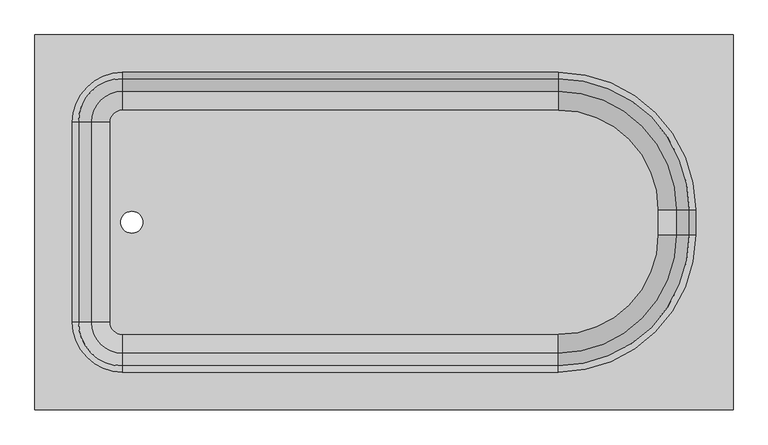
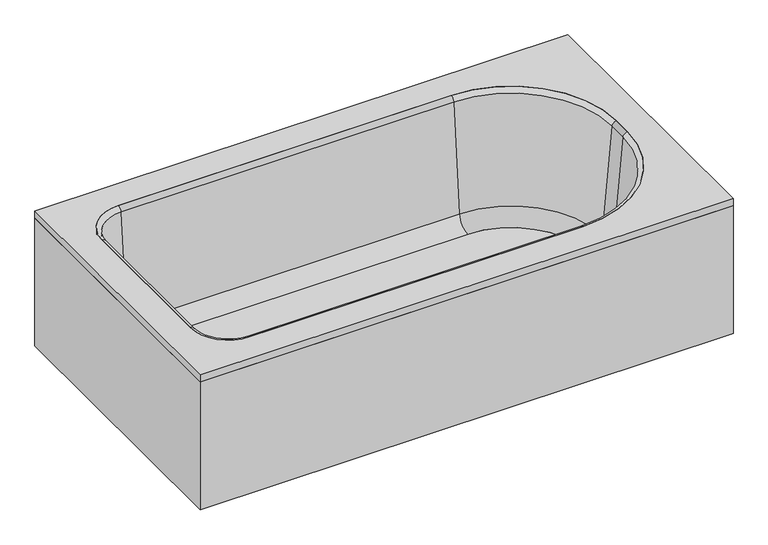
"""IFC4 building model written with IfcOpenShell, lengths in millimetres: flow terminal geometry, 浴缸-矩形(含牆) : 浴缸-矩形(含牆)."""

import ifcopenshell
import ifcopenshell.guid

model = None  # the IFC model being written
_history = None  # IfcOwnerHistory: only IFC2X3 demands one
_inside = {}  # id of a spatial element -> (the spatial element, [elements in it])
_under = {}  # id of a project, library or spatial element -> (it, [spatial elements below it])
_declared = {}  # id of a project -> (the project, [libraries it declares])
_typed = {}  # id of a type object -> (the type object, [elements of that type])
_made_of = {}  # id of a material, layer set ... -> (it, [elements and type objects made of it])


def new_model(schema):
    """Start an empty IFC model of exactly this schema.

    Asked for "IFC4X3", IfcOpenShell would pick the latest addendum, in which some entities
    have other attributes; the version numbers below select the first issue.
    IFC2X3 requires an IfcOwnerHistory on every rooted entity: one is made here for all.
    """
    global model, _history
    if schema == "IFC4X3":
        model = ifcopenshell.file(schema_version=(4, 3, 0, 0))
    else:
        model = ifcopenshell.file(schema=schema)
    _inside.clear()
    _under.clear()
    _declared.clear()
    _typed.clear()
    _made_of.clear()
    _history = None
    if model.schema == "IFC2X3":
        org = make("IfcOrganization", Name="unknown")
        user = make(
            "IfcPersonAndOrganization",
            ThePerson=make("IfcPerson", FamilyName="unknown"),
            TheOrganization=org,
        )
        app = make(
            "IfcApplication",
            ApplicationDeveloper=org,
            Version="unknown",
            ApplicationFullName="unknown",
            ApplicationIdentifier="unknown",
        )
        _history = make(
            "IfcOwnerHistory",
            OwningUser=user,
            OwningApplication=app,
            ChangeAction="ADDED",
            CreationDate=0,
        )
    return model


def make(cls, **values):
    """One entity of the class cls with the attributes given. An attribute that is None is left unset."""
    return model.create_entity(
        cls, **{name: value for name, value in values.items() if value is not None}
    )


def rooted(cls, **values):
    """An entity with a GlobalId (a new one), such as an element, a storey or a relation."""
    return make(cls, GlobalId=ifcopenshell.guid.new(), OwnerHistory=_history, **values)


def si_unit(unit_type, name, prefix=None):
    """IfcSIUnit, for example si_unit("LENGTHUNIT", "METRE", prefix="MILLI")."""
    return make("IfcSIUnit", UnitType=unit_type, Prefix=prefix, Name=name)


def assignment(units):
    """IfcUnitAssignment: the units of a project."""
    return None if units is None else make("IfcUnitAssignment", Units=units)


def point(xyz):
    """IfcCartesianPoint."""
    return None if xyz is None else make("IfcCartesianPoint", Coordinates=xyz)


def direction(xyz):
    """IfcDirection."""
    return None if xyz is None else make("IfcDirection", DirectionRatios=xyz)


def frame(location, z_axis=None, x_axis=None):
    """IfcAxis2Placement3D, a coordinate frame: its origin and axes. An axis left out is left unset."""
    return make(
        "IfcAxis2Placement3D",
        Location=point(location),
        Axis=direction(z_axis),
        RefDirection=direction(x_axis),
    )


def frame_2d(location, x_axis=None):
    """IfcAxis2Placement2D, a coordinate frame in the plane: its origin and x axis."""
    return make(
        "IfcAxis2Placement2D", Location=point(location), RefDirection=direction(x_axis)
    )


def origin():
    """The frame at (0, 0, 0) with its axes left unset."""
    return frame((0.0, 0.0, 0.0))


def origin_with_axes():
    """The frame at (0, 0, 0) with the z axis (0, 0, 1) and the x axis (1, 0, 0) written out."""
    return frame((0.0, 0.0, 0.0), z_axis=(0.0, 0.0, 1.0), x_axis=(1.0, 0.0, 0.0))


def place(relative_to, where):
    """IfcLocalPlacement: puts the frame where relative to a parent placement (None: the world)."""
    return make(
        "IfcLocalPlacement", PlacementRelTo=relative_to, RelativePlacement=where
    )


def context(
    kind, dimensions, precision=None, world=None, true_north=None, identifier=None
):
    """IfcGeometricRepresentationContext, for example the 3D "Model" context."""
    return make(
        "IfcGeometricRepresentationContext",
        ContextIdentifier=identifier,
        ContextType=kind,
        CoordinateSpaceDimension=dimensions,
        Precision=precision,
        WorldCoordinateSystem=world,
        TrueNorth=true_north,
    )


def project(units=None, contexts=None):
    """IfcProject with its units and contexts."""
    return rooted(
        "IfcProject",
        Name="project",
        RepresentationContexts=contexts,
        UnitsInContext=assignment(units),
    )


def spatial(cls, under=None, at=None, **own):
    """A site, building, storey or space (cls), placed at a placement, below another one or the project."""
    s = rooted(cls, ObjectPlacement=at, **own)
    if under is not None:
        _under.setdefault(under.id(), (under, []))[1].append(s)
    return s


def polyline(points):
    """IfcPolyline through the points."""
    return make("IfcPolyline", Points=[point(p) for p in points])


def circle_curve(where, radius):
    """IfcCircle in the frame where."""
    return make("IfcCircle", Position=where, Radius=radius)


def ellipse_curve(where, semi_axis1, semi_axis2):
    """IfcEllipse in the frame where."""
    return make(
        "IfcEllipse", Position=where, SemiAxis1=semi_axis1, SemiAxis2=semi_axis2
    )


def trimmed(basis, trim1, trim2, sense, master):
    """IfcTrimmedCurve: the piece of a basis curve between two trims."""
    return make(
        "IfcTrimmedCurve",
        BasisCurve=basis,
        Trim1=trim1,
        Trim2=trim2,
        SenseAgreement=sense,
        MasterRepresentation=master,
    )


def segment(curve, same_sense, transition):
    """IfcCompositeCurveSegment."""
    return make(
        "IfcCompositeCurveSegment",
        Transition=transition,
        SameSense=same_sense,
        ParentCurve=curve,
    )


def composite_curve(segments, self_intersect=None):
    """IfcCompositeCurve: segments joined end to end."""
    return make("IfcCompositeCurve", Segments=segments, SelfIntersect=self_intersect)


def outline(outer, holes=None, kind="AREA"):
    """IfcArbitraryClosedProfileDef: a profile drawn as a closed curve; with holes, ...WithVoids."""
    if holes is None:
        return make("IfcArbitraryClosedProfileDef", ProfileType=kind, OuterCurve=outer)
    return make(
        "IfcArbitraryProfileDefWithVoids",
        ProfileType=kind,
        OuterCurve=outer,
        InnerCurves=holes,
    )


def extrude(swept, where, along, depth):
    """IfcExtrudedAreaSolid: the profile swept, set in the frame where, extruded along a direction by depth."""
    return make(
        "IfcExtrudedAreaSolid",
        SweptArea=swept,
        Position=where,
        ExtrudedDirection=direction(along),
        Depth=depth,
    )


def shape(context_of_items, identifier, shape_type, items):
    """IfcShapeRepresentation: the items that make up one representation, for example the "Body"."""
    return make(
        "IfcShapeRepresentation",
        ContextOfItems=context_of_items,
        RepresentationIdentifier=identifier,
        RepresentationType=shape_type,
        Items=items,
    )


def source(mapping_origin, context_of_items, identifier, shape_type, items):
    """IfcRepresentationMap: a shape defined once, which mapped items show again and again."""
    return make(
        "IfcRepresentationMap",
        MappingOrigin=mapping_origin,
        MappedRepresentation=shape(context_of_items, identifier, shape_type, items),
    )


def transform(
    local_origin,
    x_axis=None,
    y_axis=None,
    z_axis=None,
    scale=None,
    scale2=None,
    scale3=None,
    uniform=True,
):
    """IfcCartesianTransformationOperator3D, or its non-uniform kind. x_axis, y_axis, z_axis: its Axis1, 2, 3."""
    if uniform:
        return make(
            "IfcCartesianTransformationOperator3D",
            Axis1=direction(x_axis),
            Axis2=direction(y_axis),
            LocalOrigin=point(local_origin),
            Scale=scale,
            Axis3=direction(z_axis),
        )
    return make(
        "IfcCartesianTransformationOperator3DnonUniform",
        Axis1=direction(x_axis),
        Axis2=direction(y_axis),
        LocalOrigin=point(local_origin),
        Scale=scale,
        Axis3=direction(z_axis),
        Scale2=scale2,
        Scale3=scale3,
    )


def mapped(mapping_source, mapping_target):
    """IfcMappedItem: shows the shape of a source again, moved by a transform."""
    return make(
        "IfcMappedItem", MappingSource=mapping_source, MappingTarget=mapping_target
    )


def made_of(thing, what):
    """Note that an element or type object is made of a material, layer set ...; save() writes the relation."""
    if what is not None:
        _made_of.setdefault(what.id(), (what, []))[1].append(thing)
    return thing


def element(
    cls,
    number,
    at=None,
    inside=None,
    cuts=None,
    type_object=None,
    material=None,
    context=None,
    identifier="Body",
    shape_type=None,
    held_by="IfcProductDefinitionShape",
    body=None,
    shapes=None,
    **own,
):
    """One element of the class cls, such as IfcWall. Its Tag is "e" and its number.

    at: its placement. inside: the storey or other place that contains it. cuts: it is an
    opening in that element (IfcRelVoidsElement). A single representation is given by context,
    identifier, shape_type and body (its items); several are given by shapes. held_by: the class
    of the entity that holds the representations. save() writes the other relations.
    """
    e = rooted(cls, Tag="e%d" % number, ObjectPlacement=at, **own)
    if body is not None:
        shapes = [shape(context, identifier, shape_type, body)]
    if shapes is not None:
        e.Representation = make(held_by, Representations=shapes)
    if inside is not None:
        _inside.setdefault(inside.id(), (inside, []))[1].append(e)
    if cuts is not None:
        rooted(
            "IfcRelVoidsElement", RelatingBuildingElement=cuts, RelatedOpeningElement=e
        )
    if type_object is not None:
        _typed.setdefault(type_object.id(), (type_object, []))[1].append(e)
    return made_of(e, material)


def aggregate(whole, parts):
    """IfcRelAggregates: a whole, such as a stair, and the parts it consists of."""
    return rooted("IfcRelAggregates", RelatingObject=whole, RelatedObjects=parts)


def save(model, path):
    """Write the relations noted so far, then the file.

    IfcRelAggregates (storeys below a building ...), IfcRelContainedInSpatialStructure (elements
    in a storey), IfcRelDefinesByType, IfcRelAssociatesMaterial and IfcRelDeclares: one each for
    every whole, place, type object, material and project.
    """
    for whole, parts in _under.values():
        aggregate(whole, parts)
    for where, things in _inside.values():
        rooted(
            "IfcRelContainedInSpatialStructure",
            RelatedElements=things,
            RelatingStructure=where,
        )
    for kind, things in _typed.values():
        rooted("IfcRelDefinesByType", RelatedObjects=things, RelatingType=kind)
    for what, things in _made_of.values():
        rooted("IfcRelAssociatesMaterial", RelatedObjects=things, RelatingMaterial=what)
    for by, libraries in _declared.values():
        rooted("IfcRelDeclares", RelatingContext=by, RelatedDefinitions=libraries)
    model.write(path)


def plane_surface(at):
    """IfcPlane: the flat surface through the origin of the frame at, square to its z axis."""
    return make("IfcPlane", Position=at)


def cylinder_surface(at, radius):
    """IfcCylindricalSurface: all points at the distance radius from the z axis of the frame at."""
    return make("IfcCylindricalSurface", Position=at, Radius=radius)


def revolved_surface(curve, axis_point, axis_direction):
    """IfcSurfaceOfRevolution: the curve turned about the line through axis_point along axis_direction."""
    return make(
        "IfcSurfaceOfRevolution",
        SweptCurve=make("IfcArbitraryOpenProfileDef", ProfileType="CURVE", Curve=curve),
        AxisPosition=make("IfcAxis1Placement", Location=point(axis_point), Axis=direction(axis_direction)),
    )


def advanced_brep(points, edges, surfaces, faces):
    """IfcAdvancedBrep: a solid bounded by faces that lie on surfaces and meet in shared edges.

    An edge is (start, end): straight between two places in points (the first is 0);
    or (start, end, curve); or (start, end, curve, False) where it runs against its curve.
    A face is (place in surfaces, loops), or (place, loops, False) where it looks against
    its surface's normal. A loop lists edges by number (the first is 1), with a minus sign
    where the edge is run from its end to its start. The first loop is the outer one.
    """
    corners = [point(p) for p in points]
    vertices = [make("IfcVertexPoint", VertexGeometry=c) for c in corners]
    made = []
    for start, end, *more in edges:
        made.append(
            make(
                "IfcEdgeCurve",
                EdgeStart=vertices[start],
                EdgeEnd=vertices[end],
                EdgeGeometry=more[0] if more else make("IfcPolyline", Points=[corners[start], corners[end]]),
                SameSense=more[1] if len(more) > 1 else True,
            )
        )
    hull = []
    for where, loops, *sense in faces:
        bounds = []
        for j, loop in enumerate(loops):
            ring = [make("IfcOrientedEdge", EdgeElement=made[abs(k) - 1], Orientation=k > 0) for k in loop]
            bounds.append(
                make(
                    "IfcFaceOuterBound" if j == 0 else "IfcFaceBound",
                    Bound=make("IfcEdgeLoop", EdgeList=ring),
                    Orientation=True,
                )
            )
        hull.append(make("IfcAdvancedFace", Bounds=bounds, FaceSurface=surfaces[where], SameSense=sense[0] if sense else True))
    return make("IfcAdvancedBrep", Outer=make("IfcClosedShell", CfsFaces=hull))


def flow_terminal_4ae471c5(model_context):
    return source(origin(), model_context, "Body", "SolidModel", [
        extrude(outline(polyline([(309.3970313, -822.0), (-1110.6029687, -822.0), (-1110.6029687, -60.0), (309.3970313, -60.0), (309.3970313, -822.0)]), holes=[composite_curve([segment(polyline([(-932.8029687, -745.8), (-46.2029687, -745.8)]), True, "CONTINUOUS"), segment(trimmed(circle_curve(frame_2d((-46.2029687, -466.4)), 279.4), [point((-46.2029687, -745.8))], [point((233.1970313, -466.4))], True, "CARTESIAN"), True, "CONTINUOUS"), segment(polyline([(233.1970313, -466.4), (233.1970313, -415.6)]), True, "CONTINUOUS"), segment(trimmed(circle_curve(frame_2d((-46.2029687, -415.6)), 279.4), [point((233.1970313, -415.6))], [point((-46.2029687, -136.2))], True, "CARTESIAN"), True, "CONTINUOUS"), segment(polyline([(-46.2029687, -136.2), (-932.8029687, -136.2)]), True, "CONTINUOUS"), segment(trimmed(circle_curve(frame_2d((-932.8029687, -237.8)), 101.6), [point((-932.8029687, -136.2))], [point((-1034.4029687, -237.8))], True, "CARTESIAN"), True, "CONTINUOUS"), segment(polyline([(-1034.4029687, -237.8), (-1034.4029687, -644.2)]), True, "CONTINUOUS"), segment(trimmed(circle_curve(frame_2d((-932.8029687, -644.2)), 101.6), [point((-1034.4029687, -644.2))], [point((-932.8029687, -745.8))], True, "CARTESIAN"), True, "CONTINUOUS")], self_intersect=False)]), frame((0.0, 0.0, 360.95), z_axis=(0.0, 0.0, 1.0), x_axis=(1.0, 0.0, 0.0)), (0.0, 0.0, 1.0), 19.05),
        extrude(outline(polyline([(309.3970313, -822.0), (-1110.6029687, -822.0), (-1110.6029687, -60.0), (309.3970313, -60.0), (309.3970313, -822.0)]), holes=[polyline([(290.3470313, -802.95), (290.3470313, -79.05), (-1091.5529687, -79.05), (-1091.5529687, -802.95), (290.3470313, -802.95)])]), origin_with_axes(), (0.0, 0.0, 1.0), 360.95),
        extrude(outline(composite_curve([segment(polyline([(-46.2029687, -669.1964741), (-932.8029687, -669.1964741)]), True, "CONTINUOUS"), segment(trimmed(circle_curve(frame_2d((-932.8029687, -644.2)), 24.9964741), [point((-932.8029687, -669.1964741))], [point((-957.7994428, -644.2))], False, "CARTESIAN"), True, "CONTINUOUS"), segment(polyline([(-957.7994428, -644.2), (-957.7994428, -237.8)]), True, "CONTINUOUS"), segment(trimmed(circle_curve(frame_2d((-932.8029687, -237.8)), 24.9964741), [point((-957.7994428, -237.8))], [point((-932.8029687, -212.8035259))], False, "CARTESIAN"), True, "CONTINUOUS"), segment(polyline([(-932.8029687, -212.8035259), (-46.2029687, -212.8035259)]), True, "CONTINUOUS"), segment(trimmed(circle_curve(frame_2d((-46.2029687, -415.6)), 202.7964741), [point((-46.2029687, -212.8035259))], [point((156.5935054, -415.6))], False, "CARTESIAN"), True, "CONTINUOUS"), segment(polyline([(156.5935054, -415.6), (156.5935054, -466.4)]), True, "CONTINUOUS"), segment(trimmed(circle_curve(frame_2d((-46.2029687, -466.4)), 202.7964741), [point((156.5935054, -466.4))], [point((-46.2029687, -669.1964741))], False, "CARTESIAN"), True, "CONTINUOUS")], self_intersect=False), holes=[composite_curve([segment(trimmed(circle_curve(frame_2d((-913.5971625, -441.0)), 22.225), [point((-913.5971625, -463.225))], [point((-913.5971625, -418.775))], True, "CARTESIAN"), True, "CONTINUOUS"), segment(trimmed(circle_curve(frame_2d((-913.5971625, -441.0)), 22.225), [point((-913.5971625, -418.775))], [point((-913.5971625, -463.225))], True, "CARTESIAN"), True, "CONTINUOUS")], self_intersect=False)]), frame((0.0, 0.0, 15.863573), z_axis=(0.0, 0.0, 1.0), x_axis=(1.0, 0.0, 0.0)), (0.0, 0.0, 1.0), 19.05),
        advanced_brep(
        [(-995.7544608, -644.2, 69.6929392), (-1021.9249722, -644.2, 368.8232535), (-932.8029687, -733.3220035, 368.8232535), (-932.8029687, -707.1514921, 69.6929392), (-957.7994428, -644.2, 34.913573), (-932.8029687, -669.1964741, 34.913573), (-957.7994428, -644.2, 15.863573), (-932.8029687, -669.1964741, 15.863573), (-1034.4029687, -644.2, 15.863573), (-932.8029687, -745.8, 15.863573), (-1034.4029687, -644.2, 380.0), (-932.8029687, -745.8, 380.0), (-995.7544608, -237.8, 69.6929392), (-1021.9249722, -237.8, 368.8232535), (-957.7994428, -237.8, 34.913573), (-957.7994428, -237.8, 15.863573), (-1034.4029687, -237.8, 15.863573), (-1034.4029687, -237.8, 380.0), (-932.8029687, -174.8485079, 69.6929392), (-932.8029687, -148.6779965, 368.8232535), (-932.8029687, -212.8035259, 34.913573), (-932.8029687, -212.8035259, 15.863573), (-932.8029687, -136.2, 15.863573), (-932.8029687, -136.2, 380.0), (-46.2029687, -174.8485079, 69.6929392), (-46.2029687, -148.6779965, 368.8232535), (-46.2029687, -212.8035259, 34.913573), (-46.2029687, -212.8035259, 15.863573), (-46.2029687, -136.2, 15.863573), (-46.2029687, -136.2, 380.0), (194.5485234, -415.6, 69.6929392), (220.7190348, -415.6, 368.8232535), (156.5935054, -415.6, 34.913573), (156.5935054, -415.6, 15.863573), (233.1970313, -415.6, 15.863573), (233.1970313, -415.6, 380.0), (194.5485234, -466.4, 69.6929392), (220.7190348, -466.4, 368.8232535), (156.5935054, -466.4, 34.913573), (156.5935054, -466.4, 15.863573), (233.1970313, -466.4, 15.863573), (233.1970313, -466.4, 380.0), (-46.2029687, -707.1514921, 69.6929392), (-46.2029687, -733.3220035, 368.8232535), (-46.2029687, -669.1964741, 34.913573), (-46.2029687, -669.1964741, 15.863573), (-46.2029687, -745.8, 15.863573), (-46.2029687, -745.8, 380.0)],
        [
            (0, 1),
            (1, 2, circle_curve(frame((-932.8029687, -644.2, 368.8232535), z_axis=(0.0, 0.0, 1.0), x_axis=(0.0, -1.0, 0.0)), 89.1220035)),
            (2, 3),
            (3, 0, circle_curve(frame((-932.8029687, -644.2, 69.6929392), z_axis=(0.0, 0.0, -1.0), x_axis=(0.0, -1.0, 0.0)), 62.9514921)),
            (4, 0, circle_curve(frame((-957.7994428, -644.2, 73.013573), z_axis=(0.0, 1.0, 0.0), x_axis=(1.0, 0.0, 0.0)), 38.1)),
            (3, 5, circle_curve(frame((-932.8029687, -669.1964741, 73.013573), z_axis=(1.0, 0.0, 0.0), x_axis=(0.0, 1.0, 0.0)), 38.1)),
            (5, 4, circle_curve(frame((-932.8029687, -644.2, 34.913573), z_axis=(0.0, 0.0, -1.0), x_axis=(0.0, -1.0, 0.0)), 24.9964741)),
            (6, 4),
            (5, 7),
            (7, 6, circle_curve(frame((-932.8029687, -644.2, 15.863573), z_axis=(0.0, 0.0, -1.0), x_axis=(0.0, -1.0, 0.0)), 24.9964741)),
            (8, 6),
            (7, 9),
            (9, 8, circle_curve(frame((-932.8029687, -644.2, 15.863573), z_axis=(0.0, 0.0, -1.0), x_axis=(0.0, -1.0, 0.0)), 101.6)),
            (10, 8),
            (9, 11),
            (11, 10, circle_curve(frame((-932.8029687, -644.2, 380.0), z_axis=(0.0, 0.0, -1.0), x_axis=(0.0, -1.0, 0.0)), 101.6)),
            (1, 10, circle_curve(frame((-1034.4029687, -644.2, 367.4462547), z_axis=(0.0, -1.0, 0.0), x_axis=(1.0, 0.0, 0.0)), 12.5537453)),
            (11, 2, circle_curve(frame((-932.8029687, -745.8, 367.4462547), z_axis=(-1.0, 0.0, 0.0), x_axis=(0.0, 1.0, 0.0)), 12.5537453)),
            (0, 12),
            (12, 13),
            (13, 1),
            (4, 14),
            (14, 12, circle_curve(frame((-957.7994428, -237.8, 73.013573), z_axis=(0.0, 1.0, 0.0), x_axis=(1.0, 0.0, 0.0)), 38.1)),
            (6, 15),
            (15, 14),
            (8, 16),
            (16, 15),
            (10, 17),
            (17, 16),
            (13, 17, circle_curve(frame((-1034.4029687, -237.8, 367.4462547), z_axis=(0.0, -1.0, 0.0), x_axis=(1.0, 0.0, 0.0)), 12.5537453)),
            (18, 19),
            (19, 13, circle_curve(frame((-932.8029687, -237.8, 368.8232535), z_axis=(0.0, 0.0, 1.0), x_axis=(-1.0, 0.0, 0.0)), 89.1220035)),
            (12, 18, circle_curve(frame((-932.8029687, -237.8, 69.6929392), z_axis=(0.0, 0.0, -1.0), x_axis=(-1.0, 0.0, 0.0)), 62.9514921)),
            (20, 18, circle_curve(frame((-932.8029687, -212.8035259, 73.013573), z_axis=(1.0, 0.0, 0.0), x_axis=(0.0, -1.0, 0.0)), 38.1)),
            (14, 20, circle_curve(frame((-932.8029687, -237.8, 34.913573), z_axis=(0.0, 0.0, -1.0), x_axis=(-1.0, 0.0, 0.0)), 24.9964741)),
            (21, 20),
            (15, 21, circle_curve(frame((-932.8029687, -237.8, 15.863573), z_axis=(0.0, 0.0, -1.0), x_axis=(-1.0, 0.0, 0.0)), 24.9964741)),
            (22, 21),
            (16, 22, circle_curve(frame((-932.8029687, -237.8, 15.863573), z_axis=(0.0, 0.0, -1.0), x_axis=(-1.0, 0.0, 0.0)), 101.6)),
            (23, 22),
            (17, 23, circle_curve(frame((-932.8029687, -237.8, 380.0), z_axis=(0.0, 0.0, -1.0), x_axis=(-1.0, 0.0, 0.0)), 101.6)),
            (19, 23, circle_curve(frame((-932.8029687, -136.2, 367.4462547), z_axis=(-1.0, 0.0, 0.0), x_axis=(0.0, -1.0, 0.0)), 12.5537453)),
            (18, 24),
            (24, 25),
            (25, 19),
            (20, 26),
            (26, 24, circle_curve(frame((-46.2029687, -212.8035259, 73.013573), z_axis=(1.0, 0.0, 0.0), x_axis=(0.0, -1.0, 0.0)), 38.1)),
            (21, 27),
            (27, 26),
            (22, 28),
            (28, 27),
            (23, 29),
            (29, 28),
            (25, 29, circle_curve(frame((-46.2029687, -136.2, 367.4462547), z_axis=(-1.0, 0.0, 0.0), x_axis=(0.0, -1.0, 0.0)), 12.5537453)),
            (30, 31),
            (31, 25, circle_curve(frame((-46.2029687, -415.6, 368.8232535), z_axis=(0.0, 0.0, 1.0), x_axis=(0.0, 1.0, 0.0)), 266.9220035)),
            (24, 30, circle_curve(frame((-46.2029687, -415.6, 69.6929392), z_axis=(0.0, 0.0, -1.0), x_axis=(0.0, 1.0, 0.0)), 240.7514921)),
            (32, 30, circle_curve(frame((156.5935054, -415.6, 73.013573), z_axis=(0.0, -1.0, 0.0), x_axis=(-1.0, 0.0, 0.0)), 38.1)),
            (26, 32, circle_curve(frame((-46.2029687, -415.6, 34.913573), z_axis=(0.0, 0.0, -1.0), x_axis=(0.0, 1.0, 0.0)), 202.7964741)),
            (33, 32),
            (27, 33, circle_curve(frame((-46.2029687, -415.6, 15.863573), z_axis=(0.0, 0.0, -1.0), x_axis=(0.0, 1.0, 0.0)), 202.7964741)),
            (34, 33),
            (28, 34, circle_curve(frame((-46.2029687, -415.6, 15.863573), z_axis=(0.0, 0.0, -1.0), x_axis=(0.0, 1.0, 0.0)), 279.4)),
            (35, 34),
            (29, 35, circle_curve(frame((-46.2029687, -415.6, 380.0), z_axis=(0.0, 0.0, -1.0), x_axis=(0.0, 1.0, 0.0)), 279.4)),
            (31, 35, circle_curve(frame((233.1970313, -415.6, 367.4462547), z_axis=(0.0, 1.0, 0.0), x_axis=(-1.0, 0.0, 0.0)), 12.5537453)),
            (30, 36),
            (36, 37),
            (37, 31),
            (32, 38),
            (38, 36, circle_curve(frame((156.5935054, -466.4, 73.013573), z_axis=(0.0, -1.0, 0.0), x_axis=(-1.0, 0.0, 0.0)), 38.1)),
            (33, 39),
            (39, 38),
            (34, 40),
            (40, 39),
            (35, 41),
            (41, 40),
            (37, 41, circle_curve(frame((233.1970313, -466.4, 367.4462547), z_axis=(0.0, 1.0, 0.0), x_axis=(-1.0, 0.0, 0.0)), 12.5537453)),
            (42, 43),
            (43, 37, circle_curve(frame((-46.2029687, -466.4, 368.8232535), z_axis=(0.0, 0.0, 1.0), x_axis=(1.0, 0.0, 0.0)), 266.9220035)),
            (36, 42, circle_curve(frame((-46.2029687, -466.4, 69.6929392), z_axis=(0.0, 0.0, -1.0), x_axis=(1.0, 0.0, 0.0)), 240.7514921)),
            (44, 42, circle_curve(frame((-46.2029687, -669.1964741, 73.013573), z_axis=(-1.0, 0.0, 0.0), x_axis=(0.0, 1.0, 0.0)), 38.1)),
            (38, 44, circle_curve(frame((-46.2029687, -466.4, 34.913573), z_axis=(0.0, 0.0, -1.0), x_axis=(1.0, 0.0, 0.0)), 202.7964741)),
            (45, 44),
            (39, 45, circle_curve(frame((-46.2029687, -466.4, 15.863573), z_axis=(0.0, 0.0, -1.0), x_axis=(1.0, 0.0, 0.0)), 202.7964741)),
            (46, 45),
            (40, 46, circle_curve(frame((-46.2029687, -466.4, 15.863573), z_axis=(0.0, 0.0, -1.0), x_axis=(1.0, 0.0, 0.0)), 279.4)),
            (47, 46),
            (41, 47, circle_curve(frame((-46.2029687, -466.4, 380.0), z_axis=(0.0, 0.0, -1.0), x_axis=(1.0, 0.0, 0.0)), 279.4)),
            (43, 47, circle_curve(frame((-46.2029687, -745.8, 367.4462547), z_axis=(1.0, 0.0, 0.0), x_axis=(0.0, 1.0, 0.0)), 12.5537453)),
            (42, 3),
            (2, 43),
            (44, 5),
            (45, 7),
            (46, 9),
            (47, 11),
        ],
        [
            revolved_surface(polyline([(-932.8029687, -733.3220035, 368.8232535), (-932.8029687, -707.1514921, 69.6929392)]), (-932.8029687, -644.2, 380.0), (0.0, 0.0, 1.0)),
            revolved_surface(trimmed(ellipse_curve(frame((-932.8029687, -669.1964741, 73.013573), z_axis=(1.0, 0.0, 0.0), x_axis=(0.0, 1.0, 0.0)), 38.1, 38.1), [point((-932.8029687, -707.1514921, 69.6929392))], [point((-932.8029687, -669.1964741, 34.913573))], True, "CARTESIAN"), (-932.8029687, -644.2, 380.0), (0.0, 0.0, 1.0)),
            revolved_surface(polyline([(-932.8029687, -669.1964741, 34.913572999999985), (-932.8029687, -669.1964741, 15.863572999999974)]), (-932.8029687, -644.2, 380.0), (0.0, 0.0, 1.0)),
            plane_surface(frame((-932.8029687, -644.2, 15.863573), z_axis=(0.0, 0.0, -1.0), x_axis=(0.0, -1.0, 0.0))),
            cylinder_surface(frame((-932.8029687, -644.2, 380.0), z_axis=(0.0, 0.0, 1.0), x_axis=(0.0, -1.0, 0.0)), 101.6),
            revolved_surface(trimmed(ellipse_curve(frame((-932.8029687, -745.8, 367.4462547), z_axis=(-1.0, 0.0, 0.0), x_axis=(0.0, 1.0, 0.0)), 12.5537453, 12.5537453), [point((-932.8029687, -745.8, 380.0))], [point((-932.8029687, -733.3220035, 368.8232535))], True, "CARTESIAN"), (-932.8029687, -644.2, 380.0), (0.0, 0.0, 1.0)),
            plane_surface(frame((-1021.9249722, -644.2, 368.8232535), z_axis=(0.9961946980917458, 0.0, 0.08715574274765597), x_axis=(0.0, 1.0, 0.0))),
            revolved_surface(polyline([(-919.6994427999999, -237.8, 73.013573), (-919.6994427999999, -644.2, 73.013573)]), (-957.7994428, -644.2, 73.013573), (0.0, 1.0, 0.0)),
            plane_surface(frame((-957.7994428, -644.2, 34.913573), z_axis=(1.0, 0.0, 0.0), x_axis=(0.0, 1.0, 0.0))),
            plane_surface(frame((-957.7994428, -644.2, 15.863573), z_axis=(0.0, 0.0, -1.0), x_axis=(0.0, 1.0, 0.0))),
            plane_surface(frame((-1034.4029687, -644.2, 15.863573), z_axis=(-1.0, 0.0, 0.0), x_axis=(0.0, 1.0, 0.0))),
            cylinder_surface(frame((-1034.4029687, -644.2, 367.4462547), z_axis=(0.0, -1.0, 0.0), x_axis=(1.0, 0.0, 0.0)), 12.5537453),
            revolved_surface(polyline([(-1021.9249722, -237.8, 368.8232535), (-995.7544608, -237.8, 69.6929392)]), (-932.8029687, -237.8, 380.0), (0.0, 0.0, 1.0)),
            revolved_surface(trimmed(ellipse_curve(frame((-957.7994428, -237.8, 73.013573), z_axis=(0.0, -1.0, 0.0), x_axis=(1.0, 0.0, 0.0)), 38.1, 38.1), [point((-995.7544608, -237.8, 69.6929392))], [point((-957.7994428, -237.8, 34.913573))], True, "CARTESIAN"), (-932.8029687, -237.8, 380.0), (0.0, 0.0, 1.0)),
            revolved_surface(polyline([(-957.7994428, -237.8, 34.913572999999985), (-957.7994428, -237.8, 15.863572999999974)]), (-932.8029687, -237.8, 380.0), (0.0, 0.0, 1.0)),
            plane_surface(frame((-932.8029687, -237.8, 15.863573), z_axis=(0.0, 0.0, -1.0), x_axis=(-1.0, 0.0, 0.0))),
            cylinder_surface(frame((-932.8029687, -237.8, 380.0), z_axis=(0.0, 0.0, 1.0), x_axis=(-1.0, 0.0, 0.0)), 101.6),
            revolved_surface(trimmed(ellipse_curve(frame((-1034.4029687, -237.8, 367.4462547), z_axis=(0.0, 1.0, 0.0), x_axis=(1.0, 0.0, 0.0)), 12.5537453, 12.5537453), [point((-1034.4029687, -237.8, 380.0))], [point((-1021.9249722, -237.8, 368.8232535))], True, "CARTESIAN"), (-932.8029687, -237.8, 380.0), (0.0, 0.0, 1.0)),
            plane_surface(frame((-932.8029687, -148.6779965, 368.8232535), z_axis=(0.0, -0.9961946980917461, 0.08715574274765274), x_axis=(1.0, 0.0, 0.0))),
            revolved_surface(polyline([(-46.20296870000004, -250.9035259, 73.013573), (-932.8029687, -250.9035259, 73.013573)]), (-932.8029687, -212.8035259, 73.013573), (1.0, 0.0, 0.0)),
            plane_surface(frame((-932.8029687, -212.8035259, 34.913573), z_axis=(0.0, -1.0, 0.0), x_axis=(1.0, 0.0, 0.0))),
            plane_surface(frame((-932.8029687, -212.8035259, 15.863573), z_axis=(0.0, 0.0, -1.0), x_axis=(1.0, 0.0, 0.0))),
            plane_surface(frame((-932.8029687, -136.2, 15.863573), z_axis=(0.0, 1.0, 0.0), x_axis=(1.0, 0.0, 0.0))),
            cylinder_surface(frame((-932.8029687, -136.2, 367.4462547), z_axis=(-1.0, 0.0, 0.0), x_axis=(0.0, -1.0, 0.0)), 12.5537453),
            revolved_surface(polyline([(-46.2029687, -148.6779965, 368.8232535), (-46.2029687, -174.8485079, 69.6929392)]), (-46.2029687, -415.6, 380.0), (0.0, 0.0, 1.0)),
            revolved_surface(trimmed(ellipse_curve(frame((-46.2029687, -212.8035259, 73.013573), z_axis=(-1.0, 0.0, 0.0), x_axis=(0.0, -1.0, 0.0)), 38.1, 38.1), [point((-46.2029687, -174.8485079, 69.6929392))], [point((-46.2029687, -212.8035259, 34.913573))], True, "CARTESIAN"), (-46.2029687, -415.6, 380.0), (0.0, 0.0, 1.0)),
            revolved_surface(polyline([(-46.2029687, -212.8035259, 34.913572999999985), (-46.2029687, -212.8035259, 15.863572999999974)]), (-46.2029687, -415.6, 380.0), (0.0, 0.0, 1.0)),
            plane_surface(frame((-46.2029687, -415.6, 15.863573), z_axis=(0.0, 0.0, -1.0), x_axis=(0.0, 1.0, 0.0))),
            cylinder_surface(frame((-46.2029687, -415.6, 380.0), z_axis=(0.0, 0.0, 1.0), x_axis=(0.0, 1.0, 0.0)), 279.4),
            revolved_surface(trimmed(ellipse_curve(frame((-46.2029687, -136.2, 367.4462547), z_axis=(1.0, 0.0, 0.0), x_axis=(0.0, -1.0, 0.0)), 12.5537453, 12.5537453), [point((-46.2029687, -136.2, 380.0))], [point((-46.2029687, -148.6779965, 368.8232535))], True, "CARTESIAN"), (-46.2029687, -415.6, 380.0), (0.0, 0.0, 1.0)),
            plane_surface(frame((220.7190348, -415.6, 368.8232535), z_axis=(-0.9961946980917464, 0.0, 0.0871557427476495), x_axis=(0.0, -1.0, 0.0))),
            revolved_surface(polyline([(118.4935054, -466.4, 73.013573), (118.4935054, -415.6, 73.013573)]), (156.5935054, -415.6, 73.013573), (0.0, -1.0, 0.0)),
            plane_surface(frame((156.5935054, -415.6, 34.913573), z_axis=(-1.0, 0.0, 0.0), x_axis=(0.0, -1.0, 0.0))),
            plane_surface(frame((156.5935054, -415.6, 15.863573), z_axis=(0.0, 0.0, -1.0), x_axis=(0.0, -1.0, 0.0))),
            plane_surface(frame((233.1970313, -415.6, 15.863573), z_axis=(1.0, 0.0, 0.0), x_axis=(0.0, -1.0, 0.0))),
            cylinder_surface(frame((233.1970313, -415.6, 367.4462547), z_axis=(0.0, 1.0, 0.0), x_axis=(-1.0, 0.0, 0.0)), 12.5537453),
            revolved_surface(polyline([(220.7190348, -466.4, 368.8232535), (194.5485234, -466.4, 69.6929392)]), (-46.2029687, -466.4, 380.0), (0.0, 0.0, 1.0)),
            revolved_surface(trimmed(ellipse_curve(frame((156.5935054, -466.4, 73.013573), z_axis=(0.0, 1.0, 0.0), x_axis=(-1.0, 0.0, 0.0)), 38.1, 38.1), [point((194.5485234, -466.4, 69.6929392))], [point((156.5935054, -466.4, 34.913573))], True, "CARTESIAN"), (-46.2029687, -466.4, 380.0), (0.0, 0.0, 1.0)),
            revolved_surface(polyline([(156.59350540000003, -466.4, 34.913572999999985), (156.59350540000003, -466.4, 15.863572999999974)]), (-46.2029687, -466.4, 380.0), (0.0, 0.0, 1.0)),
            plane_surface(frame((-46.2029687, -466.4, 15.863573), z_axis=(0.0, 0.0, -1.0), x_axis=(1.0, 0.0, 0.0))),
            cylinder_surface(frame((-46.2029687, -466.4, 380.0), z_axis=(0.0, 0.0, 1.0), x_axis=(1.0, 0.0, 0.0)), 279.4),
            revolved_surface(trimmed(ellipse_curve(frame((233.1970313, -466.4, 367.4462547), z_axis=(0.0, -1.0, 0.0), x_axis=(-1.0, 0.0, 0.0)), 12.5537453, 12.5537453), [point((233.1970313, -466.4, 380.0))], [point((220.7190348, -466.4, 368.8232535))], True, "CARTESIAN"), (-46.2029687, -466.4, 380.0), (0.0, 0.0, 1.0)),
            plane_surface(frame((-46.2029687, -733.3220035, 368.8232535), z_axis=(0.0, 0.9961946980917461, 0.08715574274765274), x_axis=(-1.0, 0.0, 0.0))),
            revolved_surface(polyline([(-932.8029687, -631.0964741, 73.013573), (-46.2029687, -631.0964741, 73.013573)]), (-46.2029687, -669.1964741, 73.013573), (-1.0, 0.0, 0.0)),
            plane_surface(frame((-46.2029687, -669.1964741, 34.913573), z_axis=(0.0, 1.0, 0.0), x_axis=(-1.0, 0.0, 0.0))),
            plane_surface(frame((-46.2029687, -669.1964741, 15.863573), z_axis=(0.0, 0.0, -1.0), x_axis=(-1.0, 0.0, 0.0))),
            plane_surface(frame((-46.2029687, -745.8, 15.863573), z_axis=(0.0, -1.0, 0.0), x_axis=(-1.0, 0.0, 0.0))),
            cylinder_surface(frame((-46.2029687, -745.8, 367.4462547), z_axis=(1.0, 0.0, 0.0), x_axis=(0.0, 1.0, 0.0)), 12.5537453),
        ],
        [
            (0, [[1, 2, 3, 4]]),
            (1, [[5, -4, 6, 7]]),
            (2, [[8, -7, 9, 10]]),
            (3, [[11, -10, 12, 13]]),
            (4, [[14, -13, 15, 16]]),
            (5, [[17, -16, 18, -2]]),
            (6, [[19, 20, 21, -1]]),
            (7, [[22, 23, -19, -5]]),
            (8, [[24, 25, -22, -8]]),
            (9, [[26, 27, -24, -11]]),
            (10, [[28, 29, -26, -14]]),
            (11, [[-21, 30, -28, -17]]),
            (12, [[31, 32, -20, 33]]),
            (13, [[34, -33, -23, 35]]),
            (14, [[36, -35, -25, 37]]),
            (15, [[38, -37, -27, 39]]),
            (16, [[40, -39, -29, 41]]),
            (17, [[42, -41, -30, -32]]),
            (18, [[43, 44, 45, -31]]),
            (19, [[46, 47, -43, -34]]),
            (20, [[48, 49, -46, -36]]),
            (21, [[50, 51, -48, -38]]),
            (22, [[52, 53, -50, -40]]),
            (23, [[-45, 54, -52, -42]]),
            (24, [[55, 56, -44, 57]]),
            (25, [[58, -57, -47, 59]]),
            (26, [[60, -59, -49, 61]]),
            (27, [[62, -61, -51, 63]]),
            (28, [[64, -63, -53, 65]]),
            (29, [[66, -65, -54, -56]]),
            (30, [[67, 68, 69, -55]]),
            (31, [[70, 71, -67, -58]]),
            (32, [[72, 73, -70, -60]]),
            (33, [[74, 75, -72, -62]]),
            (34, [[76, 77, -74, -64]]),
            (35, [[-69, 78, -76, -66]]),
            (36, [[79, 80, -68, 81]]),
            (37, [[82, -81, -71, 83]]),
            (38, [[84, -83, -73, 85]]),
            (39, [[86, -85, -75, 87]]),
            (40, [[88, -87, -77, 89]]),
            (41, [[90, -89, -78, -80]]),
            (42, [[91, -3, 92, -79]]),
            (43, [[93, -6, -91, -82]]),
            (44, [[94, -9, -93, -84]]),
            (45, [[95, -12, -94, -86]]),
            (46, [[96, -15, -95, -88]]),
            (47, [[-92, -18, -96, -90]]),
        ],
    ),
    ])


if __name__ == "__main__":
    model = new_model("IFC4")
    model_context = context("Model", 3, world=origin())
    ifc_project = project(units=[si_unit("LENGTHUNIT", "METRE", prefix="MILLI")], contexts=[model_context])
    site = spatial("IfcSite", under=ifc_project)
    building = spatial("IfcBuilding", under=site)
    placement = place(None, origin())
    flow_terminal_shape = flow_terminal_4ae471c5(model_context)
    element("IfcFlowTerminal", 1, ObjectType="浴缸-矩形(含牆) : 浴缸-矩形(含牆)", at=placement, inside=building, context=model_context, shape_type="MappedRepresentation", body=[
        mapped(flow_terminal_shape, transform((0.0, 0.0, 0.0), x_axis=(1.0, 0.0, 0.0), y_axis=(0.0, 1.0, 0.0), z_axis=(0.0, 0.0, 1.0))),
    ])
    save(model, "model.ifc")
